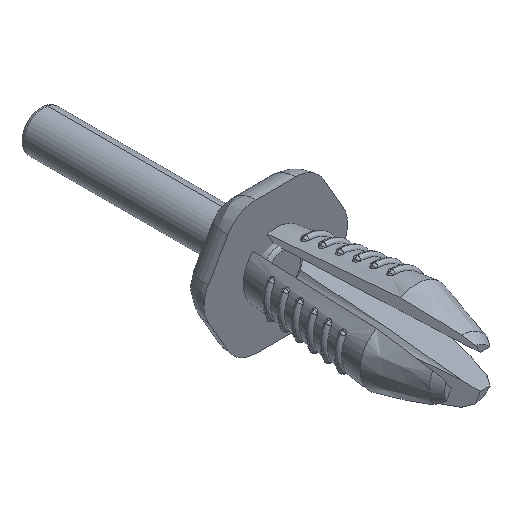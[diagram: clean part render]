
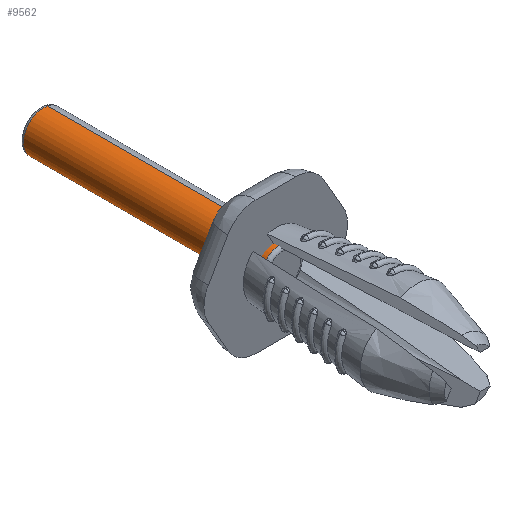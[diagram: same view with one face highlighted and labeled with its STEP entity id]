
A CAD part, isometric view. The second image highlights one B-rep face of the part: STEP entity #9562.
In plain terms, the highlighted cylindrical face has radius 1.25 mm (diameter 2.5 mm), a partial arc.
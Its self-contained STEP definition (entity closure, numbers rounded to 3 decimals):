
#9534 = VERTEX_POINT('',#9535);
#9535 = CARTESIAN_POINT('',(1.25,-2.3,0.));
#9542 = EDGE_CURVE('',#9543,#9534,#9545,.T.);
#9543 = VERTEX_POINT('',#9544);
#9544 = CARTESIAN_POINT('',(-1.25,-2.3,0.));
#9545 = CIRCLE('',#9546,1.25);
#9546 = AXIS2_PLACEMENT_3D('',#9547,#9548,#9549);
#9547 = CARTESIAN_POINT('',(0.,-2.3,0.));
#9548 = DIRECTION('',(0.,1.,0.));
#9549 = DIRECTION('',(-1.,0.,0.));
#9562 = ADVANCED_FACE('',(#9563),#9589,.T.);
#9563 = FACE_BOUND('',#9564,.T.);
#9564 = EDGE_LOOP('',(#9565,#9576,#9582,#9583));
#9565 = ORIENTED_EDGE('',*,*,#9566,.T.);
#9566 = EDGE_CURVE('',#9567,#9569,#9571,.T.);
#9567 = VERTEX_POINT('',#9568);
#9568 = CARTESIAN_POINT('',(1.25,12.3,0.));
#9569 = VERTEX_POINT('',#9570);
#9570 = CARTESIAN_POINT('',(-1.25,12.3,0.));
#9571 = CIRCLE('',#9572,1.25);
#9572 = AXIS2_PLACEMENT_3D('',#9573,#9574,#9575);
#9573 = CARTESIAN_POINT('',(0.,12.3,0.));
#9574 = DIRECTION('',(0.,-1.,0.));
#9575 = DIRECTION('',(1.,0.,0.));
#9576 = ORIENTED_EDGE('',*,*,#9577,.T.);
#9577 = EDGE_CURVE('',#9569,#9543,#9578,.T.);
#9578 = LINE('',#9579,#9580);
#9579 = CARTESIAN_POINT('',(-1.25,-2.5,0.));
#9580 = VECTOR('',#9581,1.);
#9581 = DIRECTION('',(0.,-1.,0.));
#9582 = ORIENTED_EDGE('',*,*,#9542,.T.);
#9583 = ORIENTED_EDGE('',*,*,#9584,.F.);
#9584 = EDGE_CURVE('',#9567,#9534,#9585,.T.);
#9585 = LINE('',#9586,#9587);
#9586 = CARTESIAN_POINT('',(1.25,-2.5,0.));
#9587 = VECTOR('',#9588,1.);
#9588 = DIRECTION('',(0.,-1.,0.));
#9589 = CYLINDRICAL_SURFACE('',#9590,1.25);
#9590 = AXIS2_PLACEMENT_3D('',#9591,#9592,#9593);
#9591 = CARTESIAN_POINT('',(0.,-2.5,0.));
#9592 = DIRECTION('',(0.,-1.,0.));
#9593 = DIRECTION('',(1.,0.,0.));
